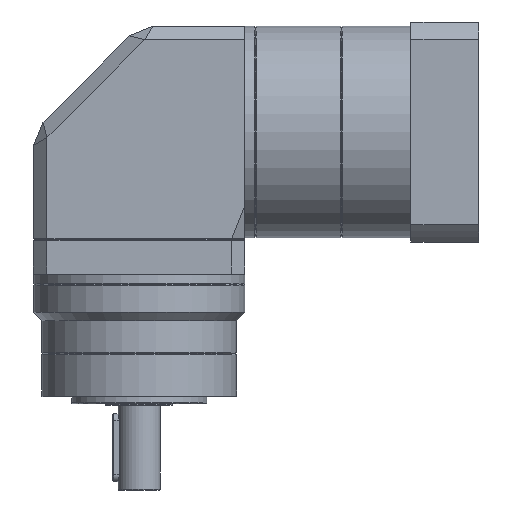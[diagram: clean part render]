
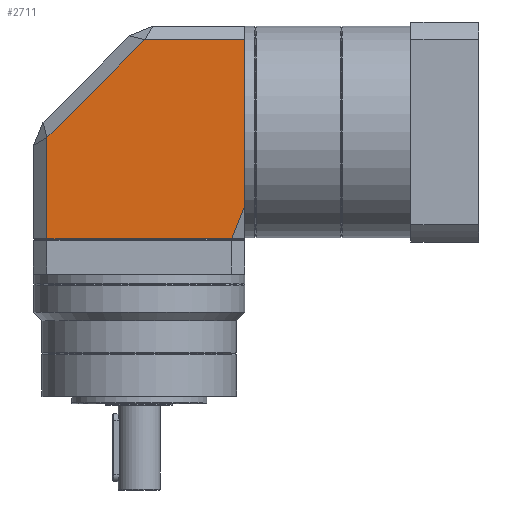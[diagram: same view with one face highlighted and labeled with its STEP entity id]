
A CAD part, left-side view. The second image highlights one B-rep face of the part: STEP entity #2711.
In plain terms, the highlighted planar face has unit normal (-1, 0, 0).
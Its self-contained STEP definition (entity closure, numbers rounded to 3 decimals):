
#52=PLANE('',#3055);
#281=FACE_OUTER_BOUND('',#455,.T.);
#455=EDGE_LOOP('',(#2361,#2362,#2363,#2364,#2365,#2366,#2367));
#600=LINE('',#4619,#821);
#605=LINE('',#4629,#826);
#667=LINE('',#4763,#888);
#668=LINE('',#4765,#889);
#669=LINE('',#4766,#890);
#670=LINE('',#4768,#891);
#671=LINE('',#4769,#892);
#821=VECTOR('',#3672,1000.);
#826=VECTOR('',#3679,1000.);
#888=VECTOR('',#3813,1000.);
#889=VECTOR('',#3814,1000.);
#890=VECTOR('',#3815,1000.);
#891=VECTOR('',#3816,1000.);
#892=VECTOR('',#3817,1000.);
#1213=VERTEX_POINT('',#4284);
#1324=VERTEX_POINT('',#4617);
#1326=VERTEX_POINT('',#4622);
#1363=VERTEX_POINT('',#4761);
#1364=VERTEX_POINT('',#4762);
#1365=VERTEX_POINT('',#4764);
#1366=VERTEX_POINT('',#4767);
#1651=EDGE_CURVE('',#1324,#1213,#600,.T.);
#1656=EDGE_CURVE('',#1213,#1326,#605,.T.);
#1719=EDGE_CURVE('',#1363,#1364,#667,.T.);
#1720=EDGE_CURVE('',#1364,#1365,#668,.T.);
#1721=EDGE_CURVE('',#1326,#1365,#669,.T.);
#1722=EDGE_CURVE('',#1324,#1366,#670,.T.);
#1723=EDGE_CURVE('',#1366,#1363,#671,.T.);
#2361=ORIENTED_EDGE('',*,*,#1719,.T.);
#2362=ORIENTED_EDGE('',*,*,#1720,.T.);
#2363=ORIENTED_EDGE('',*,*,#1721,.F.);
#2364=ORIENTED_EDGE('',*,*,#1656,.F.);
#2365=ORIENTED_EDGE('',*,*,#1651,.F.);
#2366=ORIENTED_EDGE('',*,*,#1722,.T.);
#2367=ORIENTED_EDGE('',*,*,#1723,.T.);
#2711=ADVANCED_FACE('',(#281),#52,.F.);
#3055=AXIS2_PLACEMENT_3D('',#4760,#3811,#3812);
#3672=DIRECTION('',(0.,0.,-1.));
#3679=DIRECTION('',(0.,0.,-1.));
#3811=DIRECTION('center_axis',(1.,0.,0.));
#3812=DIRECTION('ref_axis',(0.,0.,-1.));
#3813=DIRECTION('',(0.,0.,-1.));
#3814=DIRECTION('',(0.,-1.,0.));
#3815=DIRECTION('',(0.,0.371,-0.928));
#3816=DIRECTION('',(0.,1.,0.));
#3817=DIRECTION('',(0.,0.707,-0.707));
#4284=CARTESIAN_POINT('',(-62.5,-62.5,156.5));
#4617=CARTESIAN_POINT('',(-62.5,-62.5,211.));
#4619=CARTESIAN_POINT('',(-62.5,-62.5,219.));
#4622=CARTESIAN_POINT('',(-62.5,-62.5,113.));
#4629=CARTESIAN_POINT('',(-62.5,-62.5,219.));
#4760=CARTESIAN_POINT('Origin',(-62.5,62.5,219.));
#4761=CARTESIAN_POINT('',(-62.5,54.5,153.186));
#4762=CARTESIAN_POINT('',(-62.5,54.5,93.5));
#4763=CARTESIAN_POINT('',(-62.5,54.5,219.));
#4764=CARTESIAN_POINT('',(-62.5,-54.7,93.5));
#4765=CARTESIAN_POINT('',(-62.5,62.5,93.5));
#4766=CARTESIAN_POINT('',(-62.5,-81.81,161.276));
#4767=CARTESIAN_POINT('',(-62.5,-3.314,211.));
#4768=CARTESIAN_POINT('',(-62.5,0.,211.));
#4769=CARTESIAN_POINT('',(-62.5,56.843,150.843));
